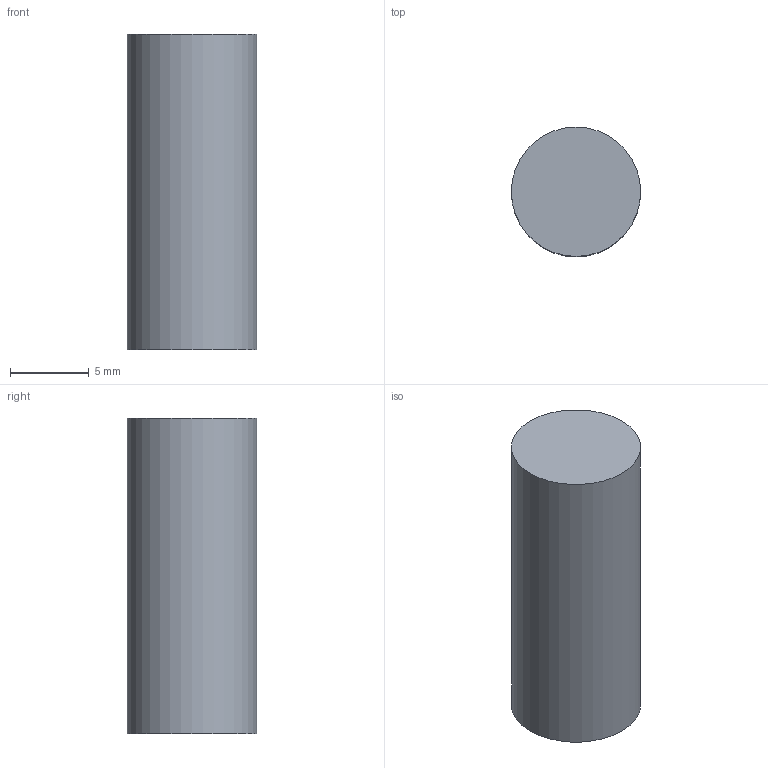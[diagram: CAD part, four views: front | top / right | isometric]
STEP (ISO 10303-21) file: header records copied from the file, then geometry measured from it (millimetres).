
FILE_DESCRIPTION(/* description */ ('','CAx-IF Rec.Pracs.---Representation and Presentation of Product Manufacturing Information (PMI)---4.0---2014-10-13'),/* implementation_level */ '2;1');
FILE_NAME(/* name */ '',/* time_stamp */ '2025-01-05T14:39:35+08:00',/* author */ (''),/* organization */ (''),/* preprocessor_version */ 'ST-DEVELOPER v20',/* originating_system */ 'Autodesk Translation Framework v13.20.0.188',/* authorisation */ '');
FILE_SCHEMA (('AP242_MANAGED_MODEL_BASED_3D_ENGINEERING_MIM_LF { 1 0 10303 442 1 1 4 }'));
Length unit declared in the file: millimetre
Products named in the file (1): (未保存)
Bounding box: 8.2 x 8.2 x 20 mm (x, y, z)
Volume: 1056.2 mm3; surface area: 620.8 mm2
Topology: 1 solids, 1 shells, 3 faces, 3 edges, 2 vertices
Faces by surface type: plane 2, cylinder 1
Full cylindrical faces by diameter (mm): 8.2 x1
Entity records: 92 total; most frequent: DIRECTION 13, CARTESIAN_POINT 9, ORIENTED_EDGE 6, AXIS2_PLACEMENT_3D 6, FACE_OUTER_BOUND 3, EDGE_LOOP 3, EDGE_CURVE 3, ADVANCED_FACE 3
